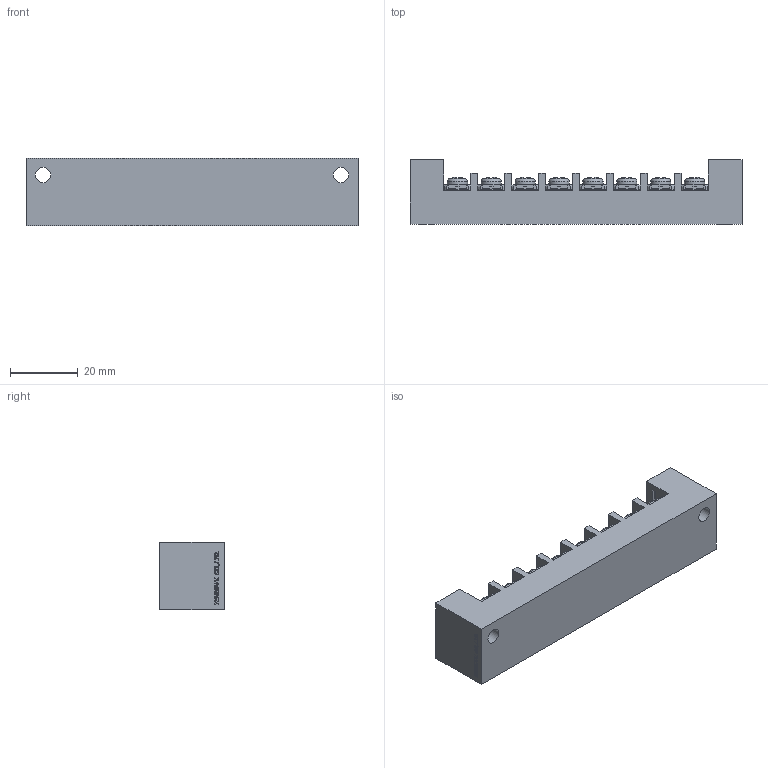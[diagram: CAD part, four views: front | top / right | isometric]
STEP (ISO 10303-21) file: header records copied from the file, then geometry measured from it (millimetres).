
FILE_DESCRIPTION(/* description */ ('Alibre Inc.'),/* implementation_level */ '2;1');
FILE_NAME(/* name */ 'export0',/* time_stamp */ '2016-02-13T17:54:11+09:00',/* author */ (''),/* organization */ (''),/* preprocessor_version */ 'ST-DEVELOPER v14',/* originating_system */ 'Alibre',/* authorisation */ '');
FILE_SCHEMA (('CONFIG_CONTROL_DESIGN'));
Length unit declared in the file: centimetre
Products named in the file (1): ID_1
Bounding box: 98 x 19 x 20 mm (x, y, z)
Volume: 25236.3 mm3; surface area: 12965.7 mm2
Topology: 1 solids, 17 shells, 1687 faces, 4569 edges, 2886 vertices
Faces by surface type: plane 1135, bspline 308, cone 80, extrusion 64, cylinder 52, sphere 32, torus 16
Full cylindrical faces by diameter (mm): 3.5 x32, 4.5 x2, 6 x16, 7 x2
Entity records: 60353 total; most frequent: CARTESIAN_POINT 22620, ORIENTED_EDGE 8906, DIRECTION 5459, EDGE_CURVE 4453, VECTOR 3030, LINE 2998, VERTEX_POINT 2854, EDGE_LOOP 1889
